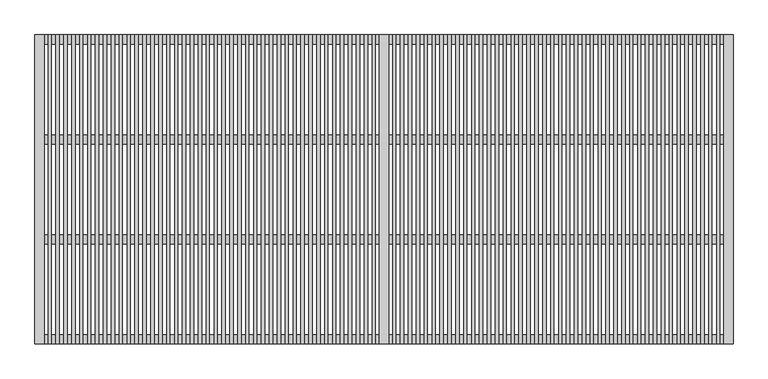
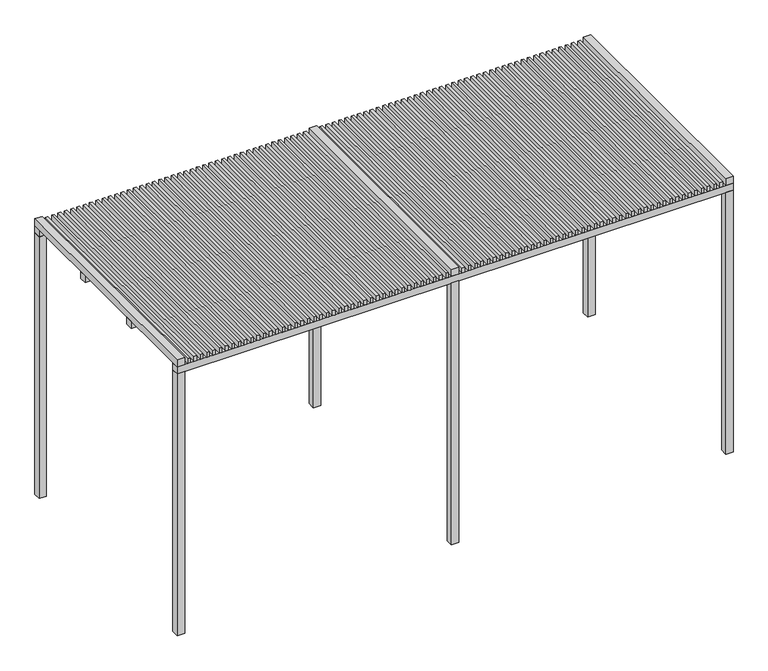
"""IFC4 building model written with IfcOpenShell, lengths in millimetres: furniture geometry, ARQ-EXT-Pergola-Mad : ARQ-EXT-Pergola-Mad."""

from ifc_helpers import new_model, si_unit, frame, origin, origin_with_axes, place, context, project, spatial, polyline, outline, extrude, source, transform, mapped, element, save


def furniture_507244a7(model_context):
    return source(origin(), model_context, "Body", "SweptSolid", [
        extrude(outline(polyline([(-2535.2996736, 0.0), (-2535.2996736, -70.0), (-2605.2996736, -70.0), (-2605.2996736, 0.0), (-2535.2996736, 0.0)])), origin_with_axes(), (0.0, 0.0, 1.0), 2640.0),
        extrude(outline(polyline([(2694.7003264, 0.0), (2694.7003264, -70.0), (2624.7003264, -70.0), (2624.7003264, 0.0), (2694.7003264, 0.0)])), origin_with_axes(), (0.0, 0.0, 1.0), 2640.0),
        extrude(outline(polyline([(2694.7003264, -2280.0), (2694.7003264, -2350.0), (2624.7003264, -2350.0), (2624.7003264, -2280.0), (2694.7003264, -2280.0)])), origin_with_axes(), (0.0, 0.0, 1.0), 2640.0),
        extrude(outline(polyline([(-2535.2996736, -2280.0), (-2535.2996736, -2350.0), (-2605.2996736, -2350.0), (-2605.2996736, -2280.0), (-2535.2996736, -2280.0)])), origin_with_axes(), (0.0, 0.0, 1.0), 2640.0),
        extrude(outline(polyline([(79.7003264, 0.0), (79.7003264, -70.0), (9.7003264, -70.0), (9.7003264, 0.0), (79.7003264, 0.0)])), origin_with_axes(), (0.0, 0.0, 1.0), 2640.0),
        extrude(outline(polyline([(79.7003264, -2280.0), (79.7003264, -2350.0), (9.7003264, -2350.0), (9.7003264, -2280.0), (79.7003264, -2280.0)])), origin_with_axes(), (0.0, 0.0, 1.0), 2640.0),
        extrude(outline(polyline([(-20.5303862, 0.0), (-20.5303862, -2350.0), (-45.5303862, -2350.0), (-45.5303862, 0.0), (-20.5303862, 0.0)])), frame((0.0, 0.0, 2710.0), z_axis=(0.0, 0.0, 1.0), x_axis=(1.0, 0.0, 0.0)), (0.0, 0.0, 1.0), 50.0),
        extrude(outline(polyline([(-80.5303862, 0.0), (-80.5303862, -2350.0), (-105.5303862, -2350.0), (-105.5303862, 0.0), (-80.5303862, 0.0)])), frame((0.0, 0.0, 2710.0), z_axis=(0.0, 0.0, 1.0), x_axis=(1.0, 0.0, 0.0)), (0.0, 0.0, 1.0), 50.0),
        extrude(outline(polyline([(-140.5303862, 0.0), (-140.5303862, -2350.0), (-165.5303862, -2350.0), (-165.5303862, 0.0), (-140.5303862, 0.0)])), frame((0.0, 0.0, 2710.0), z_axis=(0.0, 0.0, 1.0), x_axis=(1.0, 0.0, 0.0)), (0.0, 0.0, 1.0), 50.0),
        extrude(outline(polyline([(-200.5303862, 0.0), (-200.5303862, -2350.0), (-225.5303862, -2350.0), (-225.5303862, 0.0), (-200.5303862, 0.0)])), frame((0.0, 0.0, 2710.0), z_axis=(0.0, 0.0, 1.0), x_axis=(1.0, 0.0, 0.0)), (0.0, 0.0, 1.0), 50.0),
        extrude(outline(polyline([(-260.5303862, 0.0), (-260.5303862, -2350.0), (-285.5303862, -2350.0), (-285.5303862, 0.0), (-260.5303862, 0.0)])), frame((0.0, 0.0, 2710.0), z_axis=(0.0, 0.0, 1.0), x_axis=(1.0, 0.0, 0.0)), (0.0, 0.0, 1.0), 50.0),
        extrude(outline(polyline([(-320.5303862, 0.0), (-320.5303862, -2350.0), (-345.5303862, -2350.0), (-345.5303862, 0.0), (-320.5303862, 0.0)])), frame((0.0, 0.0, 2710.0), z_axis=(0.0, 0.0, 1.0), x_axis=(1.0, 0.0, 0.0)), (0.0, 0.0, 1.0), 50.0),
        extrude(outline(polyline([(-380.5303862, 0.0), (-380.5303862, -2350.0), (-405.5303862, -2350.0), (-405.5303862, 0.0), (-380.5303862, 0.0)])), frame((0.0, 0.0, 2710.0), z_axis=(0.0, 0.0, 1.0), x_axis=(1.0, 0.0, 0.0)), (0.0, 0.0, 1.0), 50.0),
        extrude(outline(polyline([(-440.5303862, 0.0), (-440.5303862, -2350.0), (-465.5303862, -2350.0), (-465.5303862, 0.0), (-440.5303862, 0.0)])), frame((0.0, 0.0, 2710.0), z_axis=(0.0, 0.0, 1.0), x_axis=(1.0, 0.0, 0.0)), (0.0, 0.0, 1.0), 50.0),
        extrude(outline(polyline([(-500.5303862, 0.0), (-500.5303862, -2350.0), (-525.5303862, -2350.0), (-525.5303862, 0.0), (-500.5303862, 0.0)])), frame((0.0, 0.0, 2710.0), z_axis=(0.0, 0.0, 1.0), x_axis=(1.0, 0.0, 0.0)), (0.0, 0.0, 1.0), 50.0),
        extrude(outline(polyline([(-560.5303862, 0.0), (-560.5303862, -2350.0), (-585.5303862, -2350.0), (-585.5303862, 0.0), (-560.5303862, 0.0)])), frame((0.0, 0.0, 2710.0), z_axis=(0.0, 0.0, 1.0), x_axis=(1.0, 0.0, 0.0)), (0.0, 0.0, 1.0), 50.0),
        extrude(outline(polyline([(-620.5303862, 0.0), (-620.5303862, -2350.0), (-645.5303862, -2350.0), (-645.5303862, 0.0), (-620.5303862, 0.0)])), frame((0.0, 0.0, 2710.0), z_axis=(0.0, 0.0, 1.0), x_axis=(1.0, 0.0, 0.0)), (0.0, 0.0, 1.0), 50.0),
        extrude(outline(polyline([(-680.5303862, 0.0), (-680.5303862, -2350.0), (-705.5303862, -2350.0), (-705.5303862, 0.0), (-680.5303862, 0.0)])), frame((0.0, 0.0, 2710.0), z_axis=(0.0, 0.0, 1.0), x_axis=(1.0, 0.0, 0.0)), (0.0, 0.0, 1.0), 50.0),
        extrude(outline(polyline([(-740.5303862, 0.0), (-740.5303862, -2350.0), (-765.5303862, -2350.0), (-765.5303862, 0.0), (-740.5303862, 0.0)])), frame((0.0, 0.0, 2710.0), z_axis=(0.0, 0.0, 1.0), x_axis=(1.0, 0.0, 0.0)), (0.0, 0.0, 1.0), 50.0),
        extrude(outline(polyline([(-800.5303862, 0.0), (-800.5303862, -2350.0), (-825.5303862, -2350.0), (-825.5303862, 0.0), (-800.5303862, 0.0)])), frame((0.0, 0.0, 2710.0), z_axis=(0.0, 0.0, 1.0), x_axis=(1.0, 0.0, 0.0)), (0.0, 0.0, 1.0), 50.0),
        extrude(outline(polyline([(-860.5303862, 0.0), (-860.5303862, -2350.0), (-885.5303862, -2350.0), (-885.5303862, 0.0), (-860.5303862, 0.0)])), frame((0.0, 0.0, 2710.0), z_axis=(0.0, 0.0, 1.0), x_axis=(1.0, 0.0, 0.0)), (0.0, 0.0, 1.0), 50.0),
        extrude(outline(polyline([(-920.5303862, 0.0), (-920.5303862, -2350.0), (-945.5303862, -2350.0), (-945.5303862, 0.0), (-920.5303862, 0.0)])), frame((0.0, 0.0, 2710.0), z_axis=(0.0, 0.0, 1.0), x_axis=(1.0, 0.0, 0.0)), (0.0, 0.0, 1.0), 50.0),
        extrude(outline(polyline([(-980.5303862, 0.0), (-980.5303862, -2350.0), (-1005.5303862, -2350.0), (-1005.5303862, 0.0), (-980.5303862, 0.0)])), frame((0.0, 0.0, 2710.0), z_axis=(0.0, 0.0, 1.0), x_axis=(1.0, 0.0, 0.0)), (0.0, 0.0, 1.0), 50.0),
        extrude(outline(polyline([(-1040.5303862, 0.0), (-1040.5303862, -2350.0), (-1065.5303862, -2350.0), (-1065.5303862, 0.0), (-1040.5303862, 0.0)])), frame((0.0, 0.0, 2710.0), z_axis=(0.0, 0.0, 1.0), x_axis=(1.0, 0.0, 0.0)), (0.0, 0.0, 1.0), 50.0),
        extrude(outline(polyline([(-1100.5303862, 0.0), (-1100.5303862, -2350.0), (-1125.5303862, -2350.0), (-1125.5303862, 0.0), (-1100.5303862, 0.0)])), frame((0.0, 0.0, 2710.0), z_axis=(0.0, 0.0, 1.0), x_axis=(1.0, 0.0, 0.0)), (0.0, 0.0, 1.0), 50.0),
        extrude(outline(polyline([(-1160.5303862, 0.0), (-1160.5303862, -2350.0), (-1185.5303862, -2350.0), (-1185.5303862, 0.0), (-1160.5303862, 0.0)])), frame((0.0, 0.0, 2710.0), z_axis=(0.0, 0.0, 1.0), x_axis=(1.0, 0.0, 0.0)), (0.0, 0.0, 1.0), 50.0),
        extrude(outline(polyline([(-1220.5303862, 0.0), (-1220.5303862, -2350.0), (-1245.5303862, -2350.0), (-1245.5303862, 0.0), (-1220.5303862, 0.0)])), frame((0.0, 0.0, 2710.0), z_axis=(0.0, 0.0, 1.0), x_axis=(1.0, 0.0, 0.0)), (0.0, 0.0, 1.0), 50.0),
        extrude(outline(polyline([(-1280.5303862, 0.0), (-1280.5303862, -2350.0), (-1305.5303862, -2350.0), (-1305.5303862, 0.0), (-1280.5303862, 0.0)])), frame((0.0, 0.0, 2710.0), z_axis=(0.0, 0.0, 1.0), x_axis=(1.0, 0.0, 0.0)), (0.0, 0.0, 1.0), 50.0),
        extrude(outline(polyline([(-1340.5303862, 0.0), (-1340.5303862, -2350.0), (-1365.5303862, -2350.0), (-1365.5303862, 0.0), (-1340.5303862, 0.0)])), frame((0.0, 0.0, 2710.0), z_axis=(0.0, 0.0, 1.0), x_axis=(1.0, 0.0, 0.0)), (0.0, 0.0, 1.0), 50.0),
        extrude(outline(polyline([(-1400.5303862, 0.0), (-1400.5303862, -2350.0), (-1425.5303862, -2350.0), (-1425.5303862, 0.0), (-1400.5303862, 0.0)])), frame((0.0, 0.0, 2710.0), z_axis=(0.0, 0.0, 1.0), x_axis=(1.0, 0.0, 0.0)), (0.0, 0.0, 1.0), 50.0),
        extrude(outline(polyline([(-1460.5303862, 0.0), (-1460.5303862, -2350.0), (-1485.5303862, -2350.0), (-1485.5303862, 0.0), (-1460.5303862, 0.0)])), frame((0.0, 0.0, 2710.0), z_axis=(0.0, 0.0, 1.0), x_axis=(1.0, 0.0, 0.0)), (0.0, 0.0, 1.0), 50.0),
        extrude(outline(polyline([(-1520.5303862, 0.0), (-1520.5303862, -2350.0), (-1545.5303862, -2350.0), (-1545.5303862, 0.0), (-1520.5303862, 0.0)])), frame((0.0, 0.0, 2710.0), z_axis=(0.0, 0.0, 1.0), x_axis=(1.0, 0.0, 0.0)), (0.0, 0.0, 1.0), 50.0),
        extrude(outline(polyline([(-1580.5303862, 0.0), (-1580.5303862, -2350.0), (-1605.5303862, -2350.0), (-1605.5303862, 0.0), (-1580.5303862, 0.0)])), frame((0.0, 0.0, 2710.0), z_axis=(0.0, 0.0, 1.0), x_axis=(1.0, 0.0, 0.0)), (0.0, 0.0, 1.0), 50.0),
        extrude(outline(polyline([(-1640.5303862, 0.0), (-1640.5303862, -2350.0), (-1665.5303862, -2350.0), (-1665.5303862, 0.0), (-1640.5303862, 0.0)])), frame((0.0, 0.0, 2710.0), z_axis=(0.0, 0.0, 1.0), x_axis=(1.0, 0.0, 0.0)), (0.0, 0.0, 1.0), 50.0),
        extrude(outline(polyline([(-1700.5303862, 0.0), (-1700.5303862, -2350.0), (-1725.5303862, -2350.0), (-1725.5303862, 0.0), (-1700.5303862, 0.0)])), frame((0.0, 0.0, 2710.0), z_axis=(0.0, 0.0, 1.0), x_axis=(1.0, 0.0, 0.0)), (0.0, 0.0, 1.0), 50.0),
        extrude(outline(polyline([(-1760.5303862, 0.0), (-1760.5303862, -2350.0), (-1785.5303862, -2350.0), (-1785.5303862, 0.0), (-1760.5303862, 0.0)])), frame((0.0, 0.0, 2710.0), z_axis=(0.0, 0.0, 1.0), x_axis=(1.0, 0.0, 0.0)), (0.0, 0.0, 1.0), 50.0),
        extrude(outline(polyline([(-1820.5303862, 0.0), (-1820.5303862, -2350.0), (-1845.5303862, -2350.0), (-1845.5303862, 0.0), (-1820.5303862, 0.0)])), frame((0.0, 0.0, 2710.0), z_axis=(0.0, 0.0, 1.0), x_axis=(1.0, 0.0, 0.0)), (0.0, 0.0, 1.0), 50.0),
        extrude(outline(polyline([(-1880.5303862, 0.0), (-1880.5303862, -2350.0), (-1905.5303862, -2350.0), (-1905.5303862, 0.0), (-1880.5303862, 0.0)])), frame((0.0, 0.0, 2710.0), z_axis=(0.0, 0.0, 1.0), x_axis=(1.0, 0.0, 0.0)), (0.0, 0.0, 1.0), 50.0),
        extrude(outline(polyline([(-1940.5303862, 0.0), (-1940.5303862, -2350.0), (-1965.5303862, -2350.0), (-1965.5303862, 0.0), (-1940.5303862, 0.0)])), frame((0.0, 0.0, 2710.0), z_axis=(0.0, 0.0, 1.0), x_axis=(1.0, 0.0, 0.0)), (0.0, 0.0, 1.0), 50.0),
        extrude(outline(polyline([(-2000.5303862, 0.0), (-2000.5303862, -2350.0), (-2025.5303862, -2350.0), (-2025.5303862, 0.0), (-2000.5303862, 0.0)])), frame((0.0, 0.0, 2710.0), z_axis=(0.0, 0.0, 1.0), x_axis=(1.0, 0.0, 0.0)), (0.0, 0.0, 1.0), 50.0),
        extrude(outline(polyline([(-2060.5303862, 0.0), (-2060.5303862, -2350.0), (-2085.5303862, -2350.0), (-2085.5303862, 0.0), (-2060.5303862, 0.0)])), frame((0.0, 0.0, 2710.0), z_axis=(0.0, 0.0, 1.0), x_axis=(1.0, 0.0, 0.0)), (0.0, 0.0, 1.0), 50.0),
        extrude(outline(polyline([(-2120.5303862, 0.0), (-2120.5303862, -2350.0), (-2145.5303862, -2350.0), (-2145.5303862, 0.0), (-2120.5303862, 0.0)])), frame((0.0, 0.0, 2710.0), z_axis=(0.0, 0.0, 1.0), x_axis=(1.0, 0.0, 0.0)), (0.0, 0.0, 1.0), 50.0),
        extrude(outline(polyline([(-2180.5303862, 0.0), (-2180.5303862, -2350.0), (-2205.5303862, -2350.0), (-2205.5303862, 0.0), (-2180.5303862, 0.0)])), frame((0.0, 0.0, 2710.0), z_axis=(0.0, 0.0, 1.0), x_axis=(1.0, 0.0, 0.0)), (0.0, 0.0, 1.0), 50.0),
        extrude(outline(polyline([(-2240.5303862, 0.0), (-2240.5303862, -2350.0), (-2265.5303862, -2350.0), (-2265.5303862, 0.0), (-2240.5303862, 0.0)])), frame((0.0, 0.0, 2710.0), z_axis=(0.0, 0.0, 1.0), x_axis=(1.0, 0.0, 0.0)), (0.0, 0.0, 1.0), 50.0),
        extrude(outline(polyline([(-2300.5303862, 0.0), (-2300.5303862, -2350.0), (-2325.5303862, -2350.0), (-2325.5303862, 0.0), (-2300.5303862, 0.0)])), frame((0.0, 0.0, 2710.0), z_axis=(0.0, 0.0, 1.0), x_axis=(1.0, 0.0, 0.0)), (0.0, 0.0, 1.0), 50.0),
        extrude(outline(polyline([(-2360.5303862, 0.0), (-2360.5303862, -2350.0), (-2385.5303862, -2350.0), (-2385.5303862, 0.0), (-2360.5303862, 0.0)])), frame((0.0, 0.0, 2710.0), z_axis=(0.0, 0.0, 1.0), x_axis=(1.0, 0.0, 0.0)), (0.0, 0.0, 1.0), 50.0),
        extrude(outline(polyline([(-2420.5303862, 0.0), (-2420.5303862, -2350.0), (-2445.5303862, -2350.0), (-2445.5303862, 0.0), (-2420.5303862, 0.0)])), frame((0.0, 0.0, 2710.0), z_axis=(0.0, 0.0, 1.0), x_axis=(1.0, 0.0, 0.0)), (0.0, 0.0, 1.0), 50.0),
        extrude(outline(polyline([(-2480.5303862, 0.0), (-2480.5303862, -2350.0), (-2505.5303862, -2350.0), (-2505.5303862, 0.0), (-2480.5303862, 0.0)])), frame((0.0, 0.0, 2710.0), z_axis=(0.0, 0.0, 1.0), x_axis=(1.0, 0.0, 0.0)), (0.0, 0.0, 1.0), 50.0),
        extrude(outline(polyline([(2594.4696138, 0.0), (2594.4696138, -2350.0), (2569.4696138, -2350.0), (2569.4696138, 0.0), (2594.4696138, 0.0)])), frame((0.0, 0.0, 2710.0), z_axis=(0.0, 0.0, 1.0), x_axis=(1.0, 0.0, 0.0)), (0.0, 0.0, 1.0), 50.0),
        extrude(outline(polyline([(2534.4696138, 0.0), (2534.4696138, -2350.0), (2509.4696138, -2350.0), (2509.4696138, 0.0), (2534.4696138, 0.0)])), frame((0.0, 0.0, 2710.0), z_axis=(0.0, 0.0, 1.0), x_axis=(1.0, 0.0, 0.0)), (0.0, 0.0, 1.0), 50.0),
        extrude(outline(polyline([(2474.4696138, 0.0), (2474.4696138, -2350.0), (2449.4696138, -2350.0), (2449.4696138, 0.0), (2474.4696138, 0.0)])), frame((0.0, 0.0, 2710.0), z_axis=(0.0, 0.0, 1.0), x_axis=(1.0, 0.0, 0.0)), (0.0, 0.0, 1.0), 50.0),
        extrude(outline(polyline([(2414.4696138, 0.0), (2414.4696138, -2350.0), (2389.4696138, -2350.0), (2389.4696138, 0.0), (2414.4696138, 0.0)])), frame((0.0, 0.0, 2710.0), z_axis=(0.0, 0.0, 1.0), x_axis=(1.0, 0.0, 0.0)), (0.0, 0.0, 1.0), 50.0),
        extrude(outline(polyline([(2354.4696138, 0.0), (2354.4696138, -2350.0), (2329.4696138, -2350.0), (2329.4696138, 0.0), (2354.4696138, 0.0)])), frame((0.0, 0.0, 2710.0), z_axis=(0.0, 0.0, 1.0), x_axis=(1.0, 0.0, 0.0)), (0.0, 0.0, 1.0), 50.0),
        extrude(outline(polyline([(2294.4696138, 0.0), (2294.4696138, -2350.0), (2269.4696138, -2350.0), (2269.4696138, 0.0), (2294.4696138, 0.0)])), frame((0.0, 0.0, 2710.0), z_axis=(0.0, 0.0, 1.0), x_axis=(1.0, 0.0, 0.0)), (0.0, 0.0, 1.0), 50.0),
        extrude(outline(polyline([(2234.4696138, 0.0), (2234.4696138, -2350.0), (2209.4696138, -2350.0), (2209.4696138, 0.0), (2234.4696138, 0.0)])), frame((0.0, 0.0, 2710.0), z_axis=(0.0, 0.0, 1.0), x_axis=(1.0, 0.0, 0.0)), (0.0, 0.0, 1.0), 50.0),
        extrude(outline(polyline([(2174.4696138, 0.0), (2174.4696138, -2350.0), (2149.4696138, -2350.0), (2149.4696138, 0.0), (2174.4696138, 0.0)])), frame((0.0, 0.0, 2710.0), z_axis=(0.0, 0.0, 1.0), x_axis=(1.0, 0.0, 0.0)), (0.0, 0.0, 1.0), 50.0),
        extrude(outline(polyline([(2114.4696138, 0.0), (2114.4696138, -2350.0), (2089.4696138, -2350.0), (2089.4696138, 0.0), (2114.4696138, 0.0)])), frame((0.0, 0.0, 2710.0), z_axis=(0.0, 0.0, 1.0), x_axis=(1.0, 0.0, 0.0)), (0.0, 0.0, 1.0), 50.0),
        extrude(outline(polyline([(2054.4696138, 0.0), (2054.4696138, -2350.0), (2029.4696138, -2350.0), (2029.4696138, 0.0), (2054.4696138, 0.0)])), frame((0.0, 0.0, 2710.0), z_axis=(0.0, 0.0, 1.0), x_axis=(1.0, 0.0, 0.0)), (0.0, 0.0, 1.0), 50.0),
        extrude(outline(polyline([(1994.4696138, 0.0), (1994.4696138, -2350.0), (1969.4696138, -2350.0), (1969.4696138, 0.0), (1994.4696138, 0.0)])), frame((0.0, 0.0, 2710.0), z_axis=(0.0, 0.0, 1.0), x_axis=(1.0, 0.0, 0.0)), (0.0, 0.0, 1.0), 50.0),
        extrude(outline(polyline([(1934.4696138, 0.0), (1934.4696138, -2350.0), (1909.4696138, -2350.0), (1909.4696138, 0.0), (1934.4696138, 0.0)])), frame((0.0, 0.0, 2710.0), z_axis=(0.0, 0.0, 1.0), x_axis=(1.0, 0.0, 0.0)), (0.0, 0.0, 1.0), 50.0),
        extrude(outline(polyline([(1874.4696138, 0.0), (1874.4696138, -2350.0), (1849.4696138, -2350.0), (1849.4696138, 0.0), (1874.4696138, 0.0)])), frame((0.0, 0.0, 2710.0), z_axis=(0.0, 0.0, 1.0), x_axis=(1.0, 0.0, 0.0)), (0.0, 0.0, 1.0), 50.0),
        extrude(outline(polyline([(1814.4696138, 0.0), (1814.4696138, -2350.0), (1789.4696138, -2350.0), (1789.4696138, 0.0), (1814.4696138, 0.0)])), frame((0.0, 0.0, 2710.0), z_axis=(0.0, 0.0, 1.0), x_axis=(1.0, 0.0, 0.0)), (0.0, 0.0, 1.0), 50.0),
        extrude(outline(polyline([(1754.4696138, 0.0), (1754.4696138, -2350.0), (1729.4696138, -2350.0), (1729.4696138, 0.0), (1754.4696138, 0.0)])), frame((0.0, 0.0, 2710.0), z_axis=(0.0, 0.0, 1.0), x_axis=(1.0, 0.0, 0.0)), (0.0, 0.0, 1.0), 50.0),
        extrude(outline(polyline([(1694.4696138, 0.0), (1694.4696138, -2350.0), (1669.4696138, -2350.0), (1669.4696138, 0.0), (1694.4696138, 0.0)])), frame((0.0, 0.0, 2710.0), z_axis=(0.0, 0.0, 1.0), x_axis=(1.0, 0.0, 0.0)), (0.0, 0.0, 1.0), 50.0),
        extrude(outline(polyline([(1634.4696138, 0.0), (1634.4696138, -2350.0), (1609.4696138, -2350.0), (1609.4696138, 0.0), (1634.4696138, 0.0)])), frame((0.0, 0.0, 2710.0), z_axis=(0.0, 0.0, 1.0), x_axis=(1.0, 0.0, 0.0)), (0.0, 0.0, 1.0), 50.0),
        extrude(outline(polyline([(1574.4696138, 0.0), (1574.4696138, -2350.0), (1549.4696138, -2350.0), (1549.4696138, 0.0), (1574.4696138, 0.0)])), frame((0.0, 0.0, 2710.0), z_axis=(0.0, 0.0, 1.0), x_axis=(1.0, 0.0, 0.0)), (0.0, 0.0, 1.0), 50.0),
        extrude(outline(polyline([(1514.4696138, 0.0), (1514.4696138, -2350.0), (1489.4696138, -2350.0), (1489.4696138, 0.0), (1514.4696138, 0.0)])), frame((0.0, 0.0, 2710.0), z_axis=(0.0, 0.0, 1.0), x_axis=(1.0, 0.0, 0.0)), (0.0, 0.0, 1.0), 50.0),
        extrude(outline(polyline([(1454.4696138, 0.0), (1454.4696138, -2350.0), (1429.4696138, -2350.0), (1429.4696138, 0.0), (1454.4696138, 0.0)])), frame((0.0, 0.0, 2710.0), z_axis=(0.0, 0.0, 1.0), x_axis=(1.0, 0.0, 0.0)), (0.0, 0.0, 1.0), 50.0),
        extrude(outline(polyline([(1394.4696138, 0.0), (1394.4696138, -2350.0), (1369.4696138, -2350.0), (1369.4696138, 0.0), (1394.4696138, 0.0)])), frame((0.0, 0.0, 2710.0), z_axis=(0.0, 0.0, 1.0), x_axis=(1.0, 0.0, 0.0)), (0.0, 0.0, 1.0), 50.0),
        extrude(outline(polyline([(1334.4696138, 0.0), (1334.4696138, -2350.0), (1309.4696138, -2350.0), (1309.4696138, 0.0), (1334.4696138, 0.0)])), frame((0.0, 0.0, 2710.0), z_axis=(0.0, 0.0, 1.0), x_axis=(1.0, 0.0, 0.0)), (0.0, 0.0, 1.0), 50.0),
        extrude(outline(polyline([(1274.4696138, 0.0), (1274.4696138, -2350.0), (1249.4696138, -2350.0), (1249.4696138, 0.0), (1274.4696138, 0.0)])), frame((0.0, 0.0, 2710.0), z_axis=(0.0, 0.0, 1.0), x_axis=(1.0, 0.0, 0.0)), (0.0, 0.0, 1.0), 50.0),
        extrude(outline(polyline([(1214.4696138, 0.0), (1214.4696138, -2350.0), (1189.4696138, -2350.0), (1189.4696138, 0.0), (1214.4696138, 0.0)])), frame((0.0, 0.0, 2710.0), z_axis=(0.0, 0.0, 1.0), x_axis=(1.0, 0.0, 0.0)), (0.0, 0.0, 1.0), 50.0),
        extrude(outline(polyline([(1154.4696138, 0.0), (1154.4696138, -2350.0), (1129.4696138, -2350.0), (1129.4696138, 0.0), (1154.4696138, 0.0)])), frame((0.0, 0.0, 2710.0), z_axis=(0.0, 0.0, 1.0), x_axis=(1.0, 0.0, 0.0)), (0.0, 0.0, 1.0), 50.0),
        extrude(outline(polyline([(1094.4696138, 0.0), (1094.4696138, -2350.0), (1069.4696138, -2350.0), (1069.4696138, 0.0), (1094.4696138, 0.0)])), frame((0.0, 0.0, 2710.0), z_axis=(0.0, 0.0, 1.0), x_axis=(1.0, 0.0, 0.0)), (0.0, 0.0, 1.0), 50.0),
        extrude(outline(polyline([(1034.4696138, 0.0), (1034.4696138, -2350.0), (1009.4696138, -2350.0), (1009.4696138, 0.0), (1034.4696138, 0.0)])), frame((0.0, 0.0, 2710.0), z_axis=(0.0, 0.0, 1.0), x_axis=(1.0, 0.0, 0.0)), (0.0, 0.0, 1.0), 50.0),
        extrude(outline(polyline([(974.4696138, 0.0), (974.4696138, -2350.0), (949.4696138, -2350.0), (949.4696138, 0.0), (974.4696138, 0.0)])), frame((0.0, 0.0, 2710.0), z_axis=(0.0, 0.0, 1.0), x_axis=(1.0, 0.0, 0.0)), (0.0, 0.0, 1.0), 50.0),
        extrude(outline(polyline([(914.4696138, 0.0), (914.4696138, -2350.0), (889.4696138, -2350.0), (889.4696138, 0.0), (914.4696138, 0.0)])), frame((0.0, 0.0, 2710.0), z_axis=(0.0, 0.0, 1.0), x_axis=(1.0, 0.0, 0.0)), (0.0, 0.0, 1.0), 50.0),
        extrude(outline(polyline([(854.4696138, 0.0), (854.4696138, -2350.0), (829.4696138, -2350.0), (829.4696138, 0.0), (854.4696138, 0.0)])), frame((0.0, 0.0, 2710.0), z_axis=(0.0, 0.0, 1.0), x_axis=(1.0, 0.0, 0.0)), (0.0, 0.0, 1.0), 50.0),
        extrude(outline(polyline([(794.4696138, 0.0), (794.4696138, -2350.0), (769.4696138, -2350.0), (769.4696138, 0.0), (794.4696138, 0.0)])), frame((0.0, 0.0, 2710.0), z_axis=(0.0, 0.0, 1.0), x_axis=(1.0, 0.0, 0.0)), (0.0, 0.0, 1.0), 50.0),
        extrude(outline(polyline([(734.4696138, 0.0), (734.4696138, -2350.0), (709.4696138, -2350.0), (709.4696138, 0.0), (734.4696138, 0.0)])), frame((0.0, 0.0, 2710.0), z_axis=(0.0, 0.0, 1.0), x_axis=(1.0, 0.0, 0.0)), (0.0, 0.0, 1.0), 50.0),
        extrude(outline(polyline([(674.4696138, 0.0), (674.4696138, -2350.0), (649.4696138, -2350.0), (649.4696138, 0.0), (674.4696138, 0.0)])), frame((0.0, 0.0, 2710.0), z_axis=(0.0, 0.0, 1.0), x_axis=(1.0, 0.0, 0.0)), (0.0, 0.0, 1.0), 50.0),
        extrude(outline(polyline([(614.4696138, 0.0), (614.4696138, -2350.0), (589.4696138, -2350.0), (589.4696138, 0.0), (614.4696138, 0.0)])), frame((0.0, 0.0, 2710.0), z_axis=(0.0, 0.0, 1.0), x_axis=(1.0, 0.0, 0.0)), (0.0, 0.0, 1.0), 50.0),
        extrude(outline(polyline([(554.4696138, 0.0), (554.4696138, -2350.0), (529.4696138, -2350.0), (529.4696138, 0.0), (554.4696138, 0.0)])), frame((0.0, 0.0, 2710.0), z_axis=(0.0, 0.0, 1.0), x_axis=(1.0, 0.0, 0.0)), (0.0, 0.0, 1.0), 50.0),
        extrude(outline(polyline([(494.4696138, 0.0), (494.4696138, -2350.0), (469.4696138, -2350.0), (469.4696138, 0.0), (494.4696138, 0.0)])), frame((0.0, 0.0, 2710.0), z_axis=(0.0, 0.0, 1.0), x_axis=(1.0, 0.0, 0.0)), (0.0, 0.0, 1.0), 50.0),
        extrude(outline(polyline([(434.4696138, 0.0), (434.4696138, -2350.0), (409.4696138, -2350.0), (409.4696138, 0.0), (434.4696138, 0.0)])), frame((0.0, 0.0, 2710.0), z_axis=(0.0, 0.0, 1.0), x_axis=(1.0, 0.0, 0.0)), (0.0, 0.0, 1.0), 50.0),
        extrude(outline(polyline([(374.4696138, 0.0), (374.4696138, -2350.0), (349.4696138, -2350.0), (349.4696138, 0.0), (374.4696138, 0.0)])), frame((0.0, 0.0, 2710.0), z_axis=(0.0, 0.0, 1.0), x_axis=(1.0, 0.0, 0.0)), (0.0, 0.0, 1.0), 50.0),
        extrude(outline(polyline([(314.4696138, 0.0), (314.4696138, -2350.0), (289.4696138, -2350.0), (289.4696138, 0.0), (314.4696138, 0.0)])), frame((0.0, 0.0, 2710.0), z_axis=(0.0, 0.0, 1.0), x_axis=(1.0, 0.0, 0.0)), (0.0, 0.0, 1.0), 50.0),
        extrude(outline(polyline([(254.4696138, 0.0), (254.4696138, -2350.0), (229.4696138, -2350.0), (229.4696138, 0.0), (254.4696138, 0.0)])), frame((0.0, 0.0, 2710.0), z_axis=(0.0, 0.0, 1.0), x_axis=(1.0, 0.0, 0.0)), (0.0, 0.0, 1.0), 50.0),
        extrude(outline(polyline([(194.4696138, 0.0), (194.4696138, -2350.0), (169.4696138, -2350.0), (169.4696138, 0.0), (194.4696138, 0.0)])), frame((0.0, 0.0, 2710.0), z_axis=(0.0, 0.0, 1.0), x_axis=(1.0, 0.0, 0.0)), (0.0, 0.0, 1.0), 50.0),
        extrude(outline(polyline([(134.4696138, 0.0), (134.4696138, -2350.0), (109.4696138, -2350.0), (109.4696138, 0.0), (134.4696138, 0.0)])), frame((0.0, 0.0, 2710.0), z_axis=(0.0, 0.0, 1.0), x_axis=(1.0, 0.0, 0.0)), (0.0, 0.0, 1.0), 50.0),
        extrude(outline(polyline([(-2535.2996736, 0.0), (-2535.2996736, -2350.0), (-2605.2996736, -2350.0), (-2605.2996736, 0.0), (-2535.2996736, 0.0)])), frame((0.0, 0.0, 2710.0), z_axis=(0.0, 0.0, 1.0), x_axis=(1.0, 0.0, 0.0)), (0.0, 0.0, 1.0), 70.0),
        extrude(outline(polyline([(2694.7003264, 0.0), (2694.7003264, -2350.0), (2624.7003264, -2350.0), (2624.7003264, 0.0), (2694.7003264, 0.0)])), frame((0.0, 0.0, 2710.0), z_axis=(0.0, 0.0, 1.0), x_axis=(1.0, 0.0, 0.0)), (0.0, 0.0, 1.0), 70.0),
        extrude(outline(polyline([(79.7003264, 0.0), (79.7003264, -2350.0), (9.7003264, -2350.0), (9.7003264, 0.0), (79.7003264, 0.0)])), frame((0.0, 0.0, 2710.0), z_axis=(0.0, 0.0, 1.0), x_axis=(1.0, 0.0, 0.0)), (0.0, 0.0, 1.0), 70.0),
        extrude(outline(polyline([(2694.7003264, 0.0), (2694.7003264, -70.0), (-2605.2996736, -70.0), (-2605.2996736, 0.0), (2694.7003264, 0.0)])), frame((0.0, 0.0, 2640.0), z_axis=(0.0, 0.0, 1.0), x_axis=(1.0, 0.0, 0.0)), (0.0, 0.0, 1.0), 70.0),
        extrude(outline(polyline([(2694.7003264, -760.0), (2694.7003264, -830.0), (-2605.2996736, -830.0), (-2605.2996736, -760.0), (2694.7003264, -760.0)])), frame((0.0, 0.0, 2640.0), z_axis=(0.0, 0.0, 1.0), x_axis=(1.0, 0.0, 0.0)), (0.0, 0.0, 1.0), 70.0),
        extrude(outline(polyline([(2694.7003264, -1520.0), (2694.7003264, -1590.0), (-2605.2996736, -1590.0), (-2605.2996736, -1520.0), (2694.7003264, -1520.0)])), frame((0.0, 0.0, 2640.0), z_axis=(0.0, 0.0, 1.0), x_axis=(1.0, 0.0, 0.0)), (0.0, 0.0, 1.0), 70.0),
        extrude(outline(polyline([(2694.7003264, -2280.0), (2694.7003264, -2350.0), (-2605.2996736, -2350.0), (-2605.2996736, -2280.0), (2694.7003264, -2280.0)])), frame((0.0, 0.0, 2640.0), z_axis=(0.0, 0.0, 1.0), x_axis=(1.0, 0.0, 0.0)), (0.0, 0.0, 1.0), 70.0),
    ])


if __name__ == "__main__":
    model = new_model("IFC4")
    model_context = context("Model", 3, world=origin())
    ifc_project = project(units=[si_unit("LENGTHUNIT", "METRE", prefix="MILLI")], contexts=[model_context])
    site = spatial("IfcSite", under=ifc_project)
    building = spatial("IfcBuilding", under=site)
    placement = place(None, origin())
    furniture_shape = furniture_507244a7(model_context)
    element("IfcFurniture", 1, ObjectType="ARQ-EXT-Pergola-Mad : ARQ-EXT-Pergola-Mad", at=placement, inside=building, context=model_context, shape_type="MappedRepresentation", body=[
        mapped(furniture_shape, transform((0.0, 0.0, 0.0), x_axis=(1.0, 0.0, 0.0), y_axis=(0.0, 1.0, 0.0), z_axis=(0.0, 0.0, 1.0))),
    ])
    save(model, "model.ifc")
